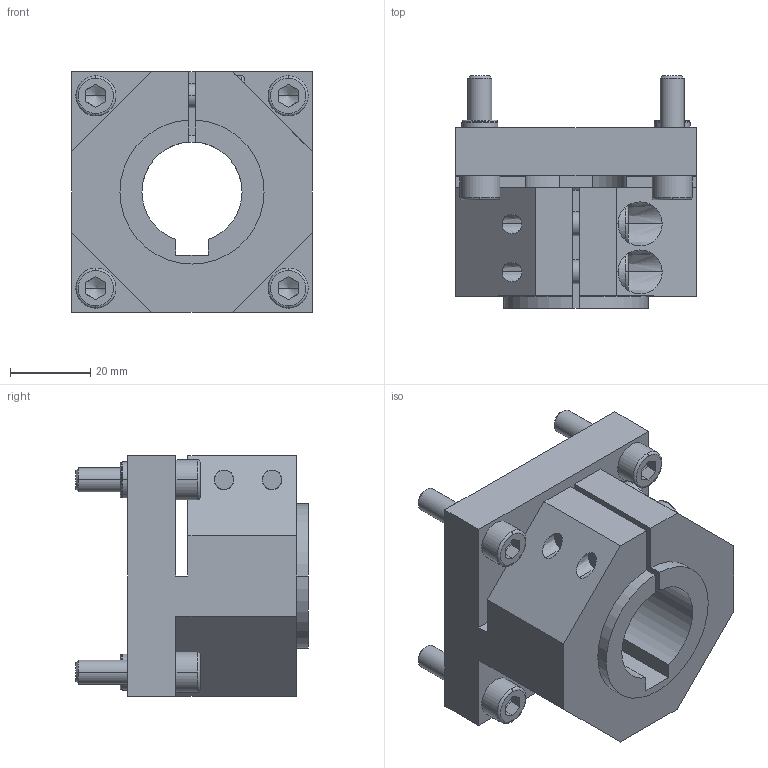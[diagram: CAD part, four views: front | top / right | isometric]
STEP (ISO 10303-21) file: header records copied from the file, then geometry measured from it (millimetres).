
FILE_DESCRIPTION((''),'2;1');
FILE_NAME('V:\CAD\Inventor-Stp\Drehantriebe\DA 32\stp\4000060.stp','2006-03-10T16:38:43',('is'),(''),'Autodesk Inventor 8','Autodesk Inventor 8','');
FILE_SCHEMA(('AUTOMOTIVE_DESIGN { 1 0 10303 214 1 1 1 1 }'));
Length unit declared in the file: millimetre
Products named in the file (1): 4000060
Bounding box: 60 x 58 x 60 mm (x, y, z)
Volume: 104143.9 mm3; surface area: 27639.5 mm2
Topology: 1 solids, 3 shells, 216 faces, 537 edges, 342 vertices
Faces by surface type: plane 80, bspline 48, cylinder 36, cone 32, torus 20
Entity records: 6902 total; most frequent: CARTESIAN_POINT 1889, ORIENTED_EDGE 1050, DIRECTION 1041, EDGE_CURVE 525, AXIS2_PLACEMENT_3D 396, VERTEX_POINT 342, EDGE_LOOP 255, VECTOR 249
